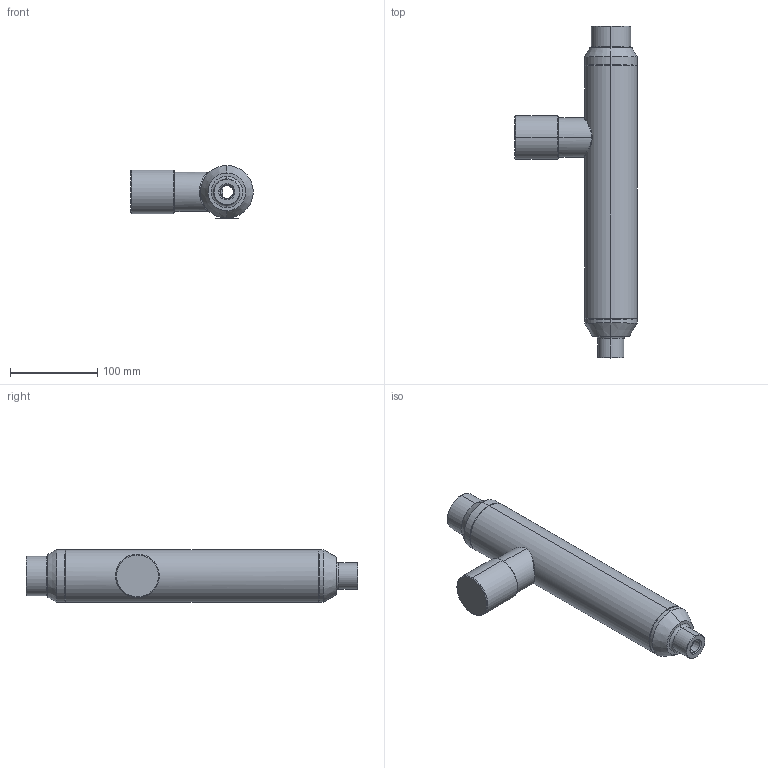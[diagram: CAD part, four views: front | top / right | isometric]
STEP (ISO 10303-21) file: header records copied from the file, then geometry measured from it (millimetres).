
FILE_DESCRIPTION (( 'STEP AP214' ), '1' );
FILE_NAME ('FAPP-T06-DUP01534.STEP', '2023-02-09T13:51:19', ( '' ), ( '' ), 'SwSTEP 2.0', 'SolidWorks 2022', '' );
FILE_SCHEMA (( 'AUTOMOTIVE_DESIGN' ));
Length unit declared in the file: millimetre
Products named in the file (8): FAPP-T06-C02-DUP01534; FAPP-T06-A01-DUP01534; FAPP-T06-C04-DUP01534; FAPP-T06-C06-DUP01534; FAPP-T06-C01-DUP01534; FAPP-T06-DUP01534; FAPP-T06-C03-DUP01534; FAPP-T06-C05-DUP01534
Assembly tree (7 placements, depth 3):
  FAPP-T06-DUP01534
    FAPP-T06-C06-DUP01534
    FAPP-T06-A01-DUP01534
      FAPP-T06-C01-DUP01534
      FAPP-T06-C02-DUP01534
      FAPP-T06-C03-DUP01534
      FAPP-T06-C04-DUP01534
      FAPP-T06-C05-DUP01534
Bounding box: 140.16 x 380 x 60.52 mm (x, y, z)
Volume: 370773 mm3; surface area: 164433.5 mm2
Topology: 6 solids, 6 shells, 826 faces, 2158 edges, 1421 vertices
Faces by surface type: plane 454, bspline 277, cone 46, cylinder 39, torus 10
Entity records: 40326 total; most frequent: CARTESIAN_POINT 21017, ORIENTED_EDGE 4316, DIRECTION 2853, EDGE_CURVE 2158, VECTOR 1457, LINE 1457, VERTEX_POINT 1421, EDGE_LOOP 919
